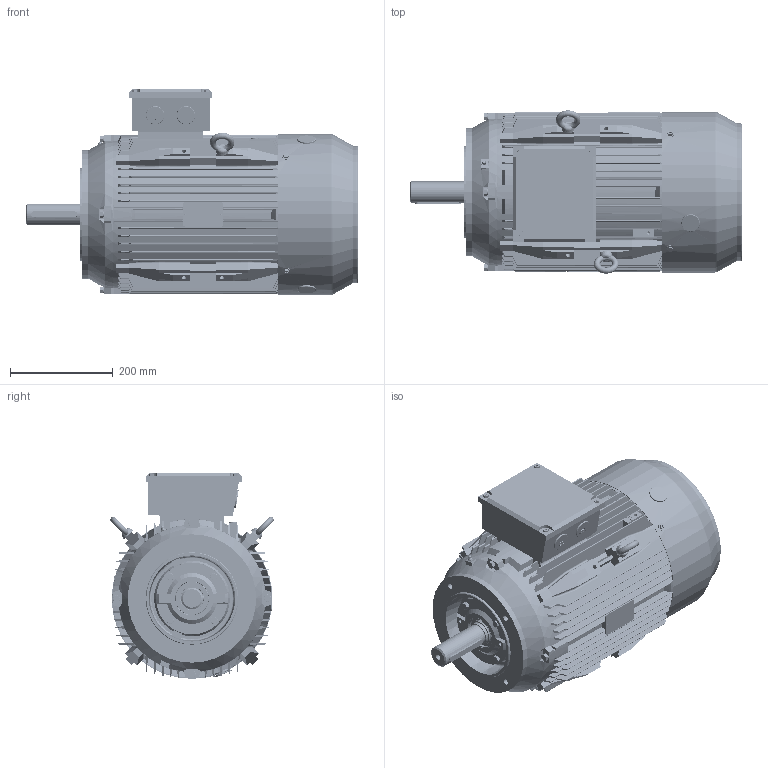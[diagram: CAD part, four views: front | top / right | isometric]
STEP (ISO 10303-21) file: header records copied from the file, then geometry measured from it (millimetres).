
FILE_DESCRIPTION (( 'STEP AP203' ), '1' );
FILE_NAME ('TC 160L B14 外形图.STEP', '2013-11-01T08:29:15', ( '微软用户' ), ( '微软中国' ), 'SwSTEP 2.0', 'SolidWorks 2008', '' );
FILE_SCHEMA (( 'CONFIG_CONTROL_DESIGN' ));
Products named in the file (25): TC 160 轴承外盖NDE_默认; TC 160 轴承内盖_默认; IE2 160风叶_默认; 油封45-65-8_默认; 扣塞_默认; M8-30_默认; 螺塞M32_默认; 吊环M10_默认; TC 160 B14 端盖_默认; TC 160L B14 俋倛芞; TC 160L 机座_默认; TC 160 B3 端盖_默认; TC 160L转子_默认; TC 160L 轴_默认; 6309_默认; TC 160 轴承外盖DE_默认; TC 160 风罩_默认; TC 160-180接线盒座_默认; TC 160-180接线盒盖_默认; 铜油嘴_默认; M8-60_默认; 8_默认; M6-20_默认; M6-10_默认; 平键12-8-90_默认
Assembly tree (50 placements, depth 3):
  TC 160L B14 俋倛芞
    TC 160 风罩_默认
    M6-10_默认  x4
    M8-60_默认  x4
    TC 160 轴承内盖_默认  x2
    螺塞M32_默认  x2
    8_默认  x8
    TC 160L转子_默认
      6309_默认  x2
      TC 160L 轴_默认
    铜油嘴_默认  x2
    M6-20_默认  x4
    油封45-65-8_默认  x2
    吊环M10_默认  x2
    TC 160 B3 端盖_默认
    TC 160-180接线盒盖_默认
    扣塞_默认  x2
    TC 160 B14 端盖_默认
    TC 160 轴承外盖NDE_默认
    TC 160-180接线盒座_默认
    M8-30_默认  x4
    平键12-8-90_默认
    TC 160 轴承外盖DE_默认
    TC 160L 机座_默认
    IE2 160风叶_默认
Bounding box: 646.5 x 318.13 x 400.5 mm (x, y, z)
Volume: 8721971.8 mm3; surface area: 2792365 mm2
Topology: 51 solids, 52 shells, 6677 faces, 19109 edges, 12534 vertices
Faces by surface type: plane 3201, cylinder 2510, cone 437, torus 361, bspline 116, sphere 52
Entity records: 211970 total; most frequent: CARTESIAN_POINT 52826, ORIENTED_EDGE 33410, DIRECTION 31815, EDGE_CURVE 16705, AXIS2_PLACEMENT_3D 11138, VERTEX_POINT 11016, VECTOR 9539, LINE 9539
